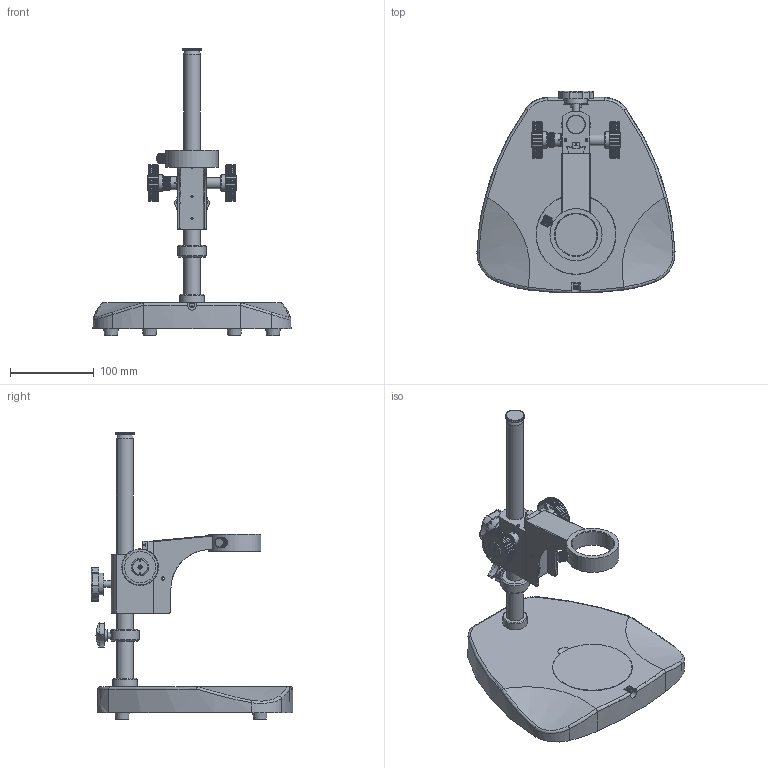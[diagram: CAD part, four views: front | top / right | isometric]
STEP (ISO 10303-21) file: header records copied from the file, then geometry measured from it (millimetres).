
FILE_DESCRIPTION(('STEP AP214'),'1');
FILE_NAME('GR-STD14.stp','2025-01-24T03:29:55',(' '),(' '),'Spatial InterOp 3D',' ',' ');
FILE_SCHEMA(('AUTOMOTIVE_DESIGN { 1 0 10303 214 1 1 1 1 }'));
Length unit declared in the file: metre
Products named in the file (6): GR-STD14; Component1; Component2; Component3; Component4; Component5
Assembly tree (5 placements, depth 2):
  GR-STD14
    Component1
    Component2
    Component3
    Component4
    Component5
Bounding box: 235.9 x 240.32 x 342.5 mm (x, y, z)
Volume: 632262.5 mm3; surface area: 263199 mm2
Topology: 9 solids, 11 shells, 3250 faces, 8046 edges, 4904 vertices
Faces by surface type: plane 2181, cylinder 900, cone 57, bspline 55, torus 50, extrusion 4, sphere 3
Full cylindrical faces by diameter (mm): 1.5 x4, 2 x4, 2.4 x3, 2.5 x5, 2.7 x12, 2.95 x2, 3 x2, 3.15 x2, 4 x1, 4.1 x4, 4.3 x1, 4.6 x1, 4.8 x1, 6 x2, 6.3 x4, 6.4 x1, 6.5 x1, 7 x6, 8 x8, 9.9 x2, 10 x4, 10.4 x1, 10.5 x1, 11.7 x1, 12 x3, 13.4 x1, 13.5 x1, 15 x1, 15.9 x1, 16.6 x2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
Entity records: 174089 total; most frequent: CARTESIAN_POINT 32249, DIRECTION 16389, ORIENTED_EDGE 15604, STYLED_ITEM 11060, PRESENTATION_STYLE_ASSIGNMENT 11060, COLOUR_RGB 11060, EDGE_CURVE 7802, CURVE_STYLE 7802
